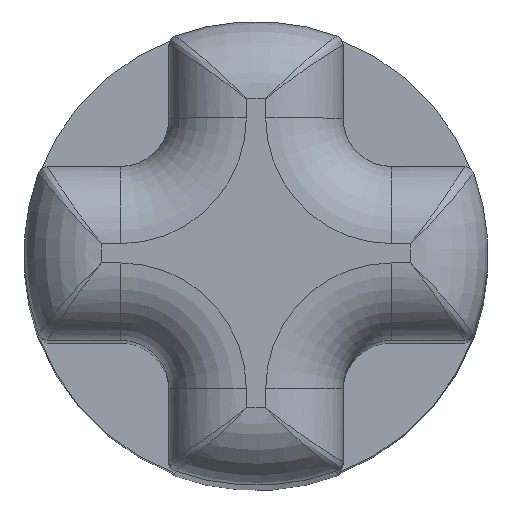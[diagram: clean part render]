
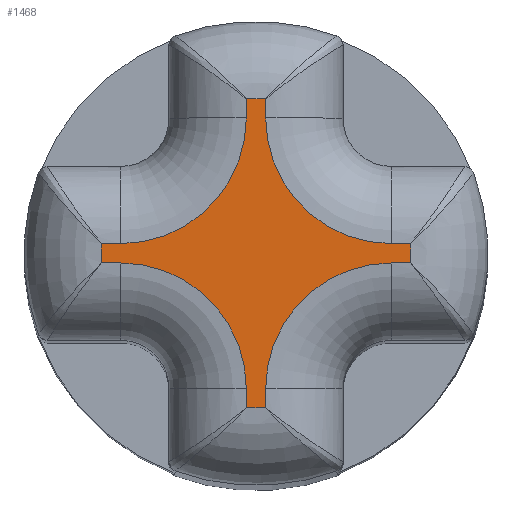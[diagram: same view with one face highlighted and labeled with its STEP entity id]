
A CAD part, top view. The second image highlights one B-rep face of the part: STEP entity #1468.
In plain terms, the highlighted planar face has unit normal (0, 0, 1).
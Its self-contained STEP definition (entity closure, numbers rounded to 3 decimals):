
#124=CIRCLE('',#1621,1.3);
#125=CIRCLE('',#1622,1.6);
#126=CIRCLE('',#1623,1.3);
#127=CIRCLE('',#1624,1.6);
#128=CIRCLE('',#1625,1.3);
#129=CIRCLE('',#1626,1.6);
#130=CIRCLE('',#1627,1.3);
#131=CIRCLE('',#1628,1.6);
#365=ORIENTED_EDGE('',*,*,#789,.T.);
#366=ORIENTED_EDGE('',*,*,#790,.T.);
#367=ORIENTED_EDGE('',*,*,#791,.T.);
#368=ORIENTED_EDGE('',*,*,#792,.T.);
#369=ORIENTED_EDGE('',*,*,#793,.T.);
#370=ORIENTED_EDGE('',*,*,#794,.T.);
#371=ORIENTED_EDGE('',*,*,#795,.T.);
#372=ORIENTED_EDGE('',*,*,#796,.T.);
#373=ORIENTED_EDGE('',*,*,#797,.T.);
#374=ORIENTED_EDGE('',*,*,#798,.T.);
#375=ORIENTED_EDGE('',*,*,#799,.T.);
#376=ORIENTED_EDGE('',*,*,#800,.T.);
#377=ORIENTED_EDGE('',*,*,#801,.T.);
#378=ORIENTED_EDGE('',*,*,#802,.T.);
#379=ORIENTED_EDGE('',*,*,#803,.T.);
#380=ORIENTED_EDGE('',*,*,#804,.T.);
#789=EDGE_CURVE('',#989,#990,#1101,.F.);
#790=EDGE_CURVE('',#990,#991,#124,.T.);
#791=EDGE_CURVE('',#991,#992,#1102,.F.);
#792=EDGE_CURVE('',#992,#993,#125,.F.);
#793=EDGE_CURVE('',#993,#994,#1103,.F.);
#794=EDGE_CURVE('',#994,#995,#126,.T.);
#795=EDGE_CURVE('',#995,#996,#1104,.F.);
#796=EDGE_CURVE('',#996,#997,#127,.F.);
#797=EDGE_CURVE('',#997,#998,#1105,.F.);
#798=EDGE_CURVE('',#998,#999,#128,.T.);
#799=EDGE_CURVE('',#999,#1000,#1106,.F.);
#800=EDGE_CURVE('',#1000,#1001,#129,.F.);
#801=EDGE_CURVE('',#1001,#1002,#1107,.F.);
#802=EDGE_CURVE('',#1002,#1003,#130,.T.);
#803=EDGE_CURVE('',#1003,#1004,#1108,.F.);
#804=EDGE_CURVE('',#1004,#989,#131,.F.);
#989=VERTEX_POINT('',#2434);
#990=VERTEX_POINT('',#2435);
#991=VERTEX_POINT('',#2437);
#992=VERTEX_POINT('',#2439);
#993=VERTEX_POINT('',#2441);
#994=VERTEX_POINT('',#2443);
#995=VERTEX_POINT('',#2445);
#996=VERTEX_POINT('',#2447);
#997=VERTEX_POINT('',#2449);
#998=VERTEX_POINT('',#2451);
#999=VERTEX_POINT('',#2453);
#1000=VERTEX_POINT('',#2455);
#1001=VERTEX_POINT('',#2457);
#1002=VERTEX_POINT('',#2459);
#1003=VERTEX_POINT('',#2461);
#1004=VERTEX_POINT('',#2463);
#1101=LINE('',#2433,#1197);
#1102=LINE('',#2438,#1198);
#1103=LINE('',#2442,#1199);
#1104=LINE('',#2446,#1200);
#1105=LINE('',#2450,#1201);
#1106=LINE('',#2454,#1202);
#1107=LINE('',#2458,#1203);
#1108=LINE('',#2462,#1204);
#1197=VECTOR('',#1952,1000.);
#1198=VECTOR('',#1955,1000.);
#1199=VECTOR('',#1958,1000.);
#1200=VECTOR('',#1961,1000.);
#1201=VECTOR('',#1964,1000.);
#1202=VECTOR('',#1967,1000.);
#1203=VECTOR('',#1970,1000.);
#1204=VECTOR('',#1973,1000.);
#1243=EDGE_LOOP('',(#365,#366,#367,#368,#369,#370,#371,#372,#373,#374,#375,
#376,#377,#378,#379,#380));
#1343=FACE_BOUND('',#1243,.T.);
#1429=PLANE('',#1620);
#1468=ADVANCED_FACE('',(#1343),#1429,.F.);
#1620=AXIS2_PLACEMENT_3D('',#2432,#1950,#1951);
#1621=AXIS2_PLACEMENT_3D('',#2436,#1953,#1954);
#1622=AXIS2_PLACEMENT_3D('',#2440,#1956,#1957);
#1623=AXIS2_PLACEMENT_3D('',#2444,#1959,#1960);
#1624=AXIS2_PLACEMENT_3D('',#2448,#1962,#1963);
#1625=AXIS2_PLACEMENT_3D('',#2452,#1965,#1966);
#1626=AXIS2_PLACEMENT_3D('',#2456,#1968,#1969);
#1627=AXIS2_PLACEMENT_3D('',#2460,#1971,#1972);
#1628=AXIS2_PLACEMENT_3D('',#2464,#1974,#1975);
#1950=DIRECTION('',(0.,0.,-1.));
#1951=DIRECTION('',(-1.,0.,0.));
#1952=DIRECTION('',(1.,0.,0.));
#1953=DIRECTION('',(0.,0.,-1.));
#1954=DIRECTION('',(-1.,0.,0.));
#1955=DIRECTION('',(0.,-1.,0.));
#1956=DIRECTION('',(0.,0.,-1.));
#1957=DIRECTION('',(-1.,0.,0.));
#1958=DIRECTION('',(0.,1.,0.));
#1959=DIRECTION('',(0.,0.,-1.));
#1960=DIRECTION('',(-1.,0.,0.));
#1961=DIRECTION('',(1.,0.,0.));
#1962=DIRECTION('',(0.,0.,-1.));
#1963=DIRECTION('',(-1.,0.,0.));
#1964=DIRECTION('',(-1.,0.,0.));
#1965=DIRECTION('',(0.,0.,-1.));
#1966=DIRECTION('',(-1.,0.,0.));
#1967=DIRECTION('',(0.,1.,0.));
#1968=DIRECTION('',(0.,0.,-1.));
#1969=DIRECTION('',(-1.,0.,0.));
#1970=DIRECTION('',(0.,-1.,0.));
#1971=DIRECTION('',(0.,0.,-1.));
#1972=DIRECTION('',(-1.,0.,0.));
#1973=DIRECTION('',(-1.,0.,0.));
#1974=DIRECTION('',(0.,0.,-1.));
#1975=DIRECTION('',(-1.,0.,0.));
#2432=CARTESIAN_POINT('',(0.,0.,16.));
#2433=CARTESIAN_POINT('',(1.4,0.1,16.));
#2434=CARTESIAN_POINT('',(1.597,0.1,16.));
#2435=CARTESIAN_POINT('',(1.4,0.1,16.));
#2436=CARTESIAN_POINT('',(1.4,1.4,16.));
#2437=CARTESIAN_POINT('',(0.1,1.4,16.));
#2438=CARTESIAN_POINT('',(0.1,2.225,16.));
#2439=CARTESIAN_POINT('',(0.1,1.597,16.));
#2440=CARTESIAN_POINT('',(0.,0.,16.));
#2441=CARTESIAN_POINT('',(-0.1,1.597,16.));
#2442=CARTESIAN_POINT('',(-0.1,1.4,16.));
#2443=CARTESIAN_POINT('',(-0.1,1.4,16.));
#2444=CARTESIAN_POINT('',(-1.4,1.4,16.));
#2445=CARTESIAN_POINT('',(-1.4,0.1,16.));
#2446=CARTESIAN_POINT('',(-2.225,0.1,16.));
#2447=CARTESIAN_POINT('',(-1.597,0.1,16.));
#2448=CARTESIAN_POINT('',(0.,0.,16.));
#2449=CARTESIAN_POINT('',(-1.597,-0.1,16.));
#2450=CARTESIAN_POINT('',(-1.4,-0.1,16.));
#2451=CARTESIAN_POINT('',(-1.4,-0.1,16.));
#2452=CARTESIAN_POINT('',(-1.4,-1.4,16.));
#2453=CARTESIAN_POINT('',(-0.1,-1.4,16.));
#2454=CARTESIAN_POINT('',(-0.1,-2.225,16.));
#2455=CARTESIAN_POINT('',(-0.1,-1.597,16.));
#2456=CARTESIAN_POINT('',(0.,0.,16.));
#2457=CARTESIAN_POINT('',(0.1,-1.597,16.));
#2458=CARTESIAN_POINT('',(0.1,-1.4,16.));
#2459=CARTESIAN_POINT('',(0.1,-1.4,16.));
#2460=CARTESIAN_POINT('',(1.4,-1.4,16.));
#2461=CARTESIAN_POINT('',(1.4,-0.1,16.));
#2462=CARTESIAN_POINT('',(2.225,-0.1,16.));
#2463=CARTESIAN_POINT('',(1.597,-0.1,16.));
#2464=CARTESIAN_POINT('',(0.,0.,16.));
